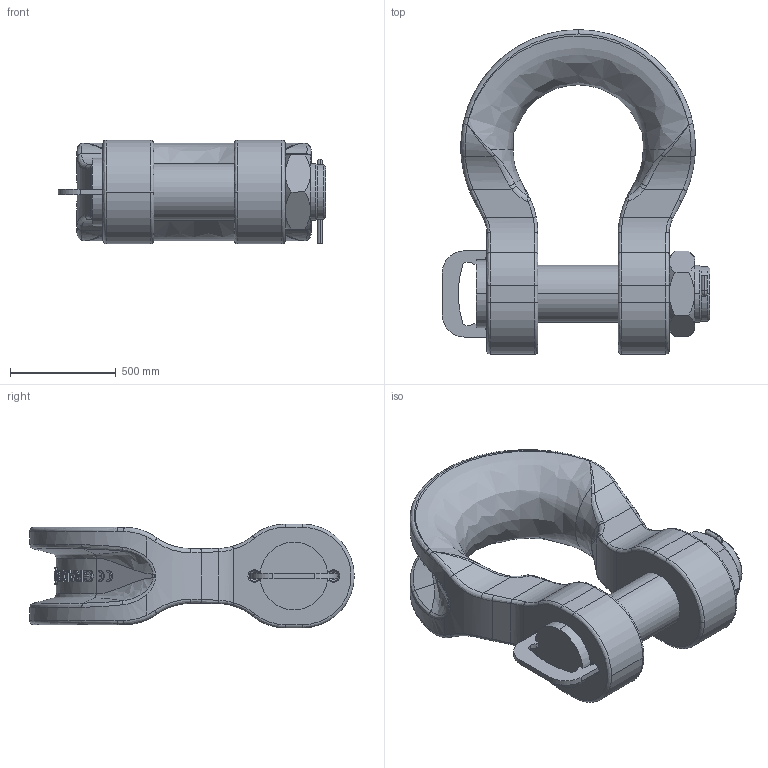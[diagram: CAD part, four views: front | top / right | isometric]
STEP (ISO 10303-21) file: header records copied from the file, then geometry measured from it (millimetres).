
FILE_DESCRIPTION(('STEP AP214'),'1');
FILE_NAME('slgpf1000.stp','2017-07-03T06:31:24',('TraceParts'),('TraceParts S.A.'),'Spatial InterOp 3D',' ',' ');
FILE_SCHEMA(('automotive_design'));
Length unit declared in the file: millimetre
Products named in the file (5): slgpf1000_1; slgpf1000_2; slgpf1000_3; slgpf1000_4; slgpf1000_5
Bounding box: 1262.5 x 1531.5 x 490 mm (x, y, z)
Volume: 303912657.6 mm3; surface area: 6202825.4 mm2
Topology: 5 solids, 5 shells, 574 faces, 1426 edges, 885 vertices
Faces by surface type: bspline 258, plane 177, cylinder 107, cone 30, torus 2
Entity records: 75056 total; most frequent: CARTESIAN_POINT 58838, ORIENTED_EDGE 2832, DIRECTION 1685, EDGE_CURVE 1416, VERTEX_POINT 885, B_SPLINE_CURVE_WITH_KNOTS 665, AXIS2_PLACEMENT_3D 653, EDGE_LOOP 615
